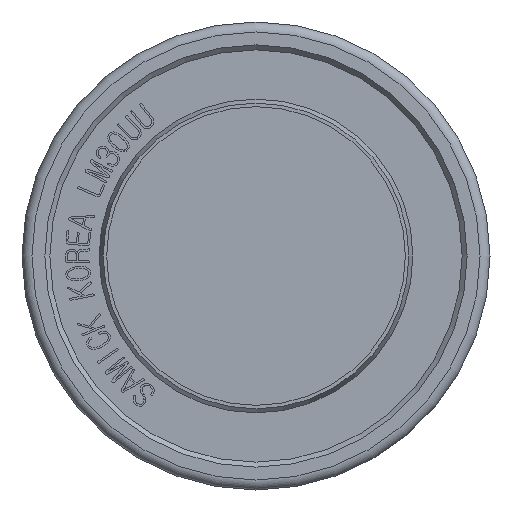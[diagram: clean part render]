
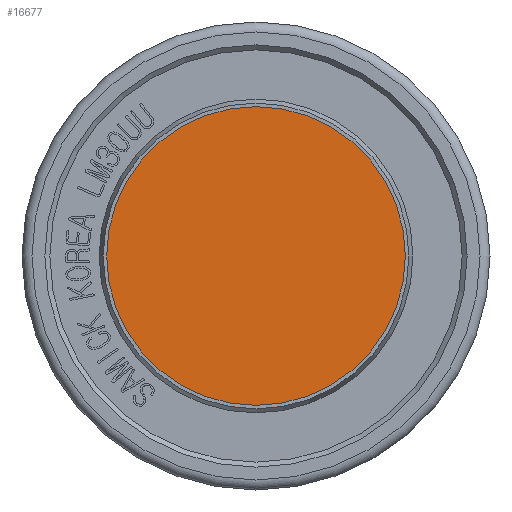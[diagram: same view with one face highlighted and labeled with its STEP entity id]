
A CAD part, front view. The second image highlights one B-rep face of the part: STEP entity #16677.
In plain terms, the highlighted planar face has unit normal (0, -1, 0).
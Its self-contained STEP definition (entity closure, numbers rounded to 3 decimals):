
#41=CIRCLE('',#16944,15.);
#345=PLANE('',#16946);
#1183=FACE_OUTER_BOUND('',#2080,.T.);
#2080=EDGE_LOOP('',(#14298));
#7160=VERTEX_POINT('',#29009);
#9553=EDGE_CURVE('',#7160,#7160,#41,.T.);
#14298=ORIENTED_EDGE('',*,*,#9553,.F.);
#16677=ADVANCED_FACE('',(#1183),#345,.T.);
#16944=AXIS2_PLACEMENT_3D('',#29011,#18567,#18568);
#16946=AXIS2_PLACEMENT_3D('',#29013,#18571,#18572);
#18567=DIRECTION('center_axis',(0.,1.,0.));
#18568=DIRECTION('ref_axis',(1.,0.,0.));
#18571=DIRECTION('center_axis',(0.,-1.,0.));
#18572=DIRECTION('ref_axis',(0.,0.,-1.));
#29009=CARTESIAN_POINT('',(-15.,-86.5,0.));
#29011=CARTESIAN_POINT('Origin',(0.,-86.5,0.));
#29013=CARTESIAN_POINT('Origin',(0.,-86.5,0.));
